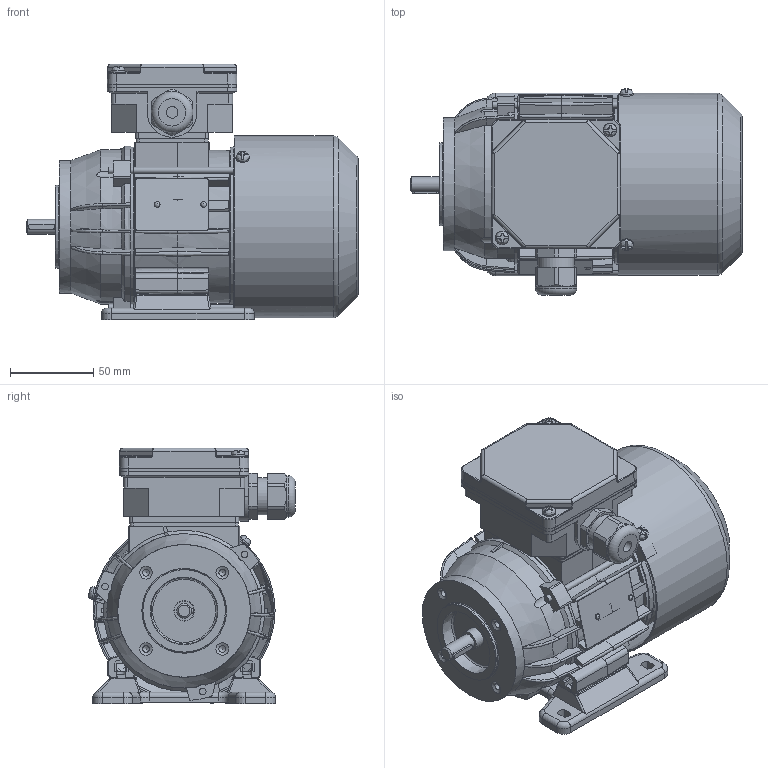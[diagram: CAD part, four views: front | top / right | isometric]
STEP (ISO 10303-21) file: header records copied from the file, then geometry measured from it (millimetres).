
FILE_DESCRIPTION( ( 'Unknown' ), '1' );
FILE_NAME( 'G:/Poczta Tk-1/STP/w.m.56/Sh56/SLh56-C2.stp', 'Unknown', ( 'K. Szlosek' ), ( 'BESEL S.A.' ), 'PSStep 17.0.49', 'Unknown', ' ' );
FILE_SCHEMA( ( 'AUTOMOTIVE_DESIGN { 1 0 10303 214 1 1 1 1 }' ) );
Length unit declared in the file: millimetre
Products named in the file (29): Assem1; K4-2320 Uszczelka nr 1 Sh71,80; K3-2193 Tarcza łożyskowa P Sg56-2..; K2-0860 Pokrywka skrzynki zaciskowej; Wpust A3x3x16; K3-2977 Osłona przewietrznika Sg56; K4-2820 Uszczelka nr 2 Sh71,80; Wkręt samogwintujący M4x8; Wkręt samogwintujący M4x16; K2-0879 Przewietrznik Sg56; Nitokołek A 2x6; K1-0484 Łapa Sg56-.. w. robocza; K3-9987 kadłub ze stojanem Sh56-C; K3-9990 wał Sh56-C; K1-0533 Tarcza kołnierzowa B14_2 SKg56-..2; K2-0859 Podstawa skrzynki 6-cio zaciskowej; Śruba ściągająca E_M4x85; Tabliczka znamionowa 32x44; Łożysko 6201; Dławnica M20x1,5
Assembly tree (44 placements, depth 2):
  Assem1
    K4-2320 Uszczelka nr 1 Sh71,80
    K3-2193 Tarcza łożyskowa P Sg56-2..
    K2-0860 Pokrywka skrzynki zaciskowej
    Wpust A3x3x16
    K3-2977 Osłona przewietrznika Sg56
    K4-2820 Uszczelka nr 2 Sh71,80
    Wkręt samogwintujący M4x8  x3
    Wkręt samogwintujący M4x16  x2
    K2-0879 Przewietrznik Sg56
    Nitokołek A 2x6  x2
    K1-0484 Łapa Sg56-.. w. robocza
    K3-9987 kadłub ze stojanem Sh56-C
    K3-9990 wał Sh56-C
    K1-0533 Tarcza kołnierzowa B14_2 SKg56-..2
    K2-0859 Podstawa skrzynki 6-cio zaciskowej
    Śruba ściągająca E_M4x85  x3
    Tabliczka znamionowa 32x44
    Łożysko 6201  x2
    Łożysko 6201  x2
    Łożysko 6201  x2
    Łożysko 6201  x2
    Łożysko 6201  x2
    Łożysko 6201  x2
    Łożysko 6201  x2
    Łożysko 6201  x2
    Łożysko 6201  x2
    Łożysko 6201  x2
    Dławnica M20x1,5
Bounding box: 200 x 124.54 x 154 mm (x, y, z)
Volume: 458415.7 mm3; surface area: 320080.3 mm2
Topology: 44 solids, 60 shells, 1917 faces, 5189 edges, 3348 vertices
Faces by surface type: plane 996, cylinder 555, cone 132, torus 108, bspline 92, sphere 34
Full cylindrical faces by diameter (mm): 2 x2, 2.4 x2, 3.242 x3, 3.7 x10, 4 x8, 4.134 x4, 4.5 x4, 4.8 x4, 5 x4, 5.8 x4, 7 x4, 8 x6, 9 x1, 10.9 x1, 11 x1, 11.5 x1, 11.8 x2, 12 x4, 12.4 x2, 15.5 x1, 16 x1, 16.1 x1, 17 x2, 18 x1, 18.376 x1, 18.38 x1, 18.52 x4, 20 x1, 22.3 x1, 24 x2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
Entity records: 78942 total; most frequent: CARTESIAN_POINT 20976, ORIENTED_EDGE 9008, DIRECTION 8948, EDGE_CURVE 4504, AXIS2_PLACEMENT_3D 3323, VERTEX_POINT 3042, LINE 2302, VECTOR 2302
